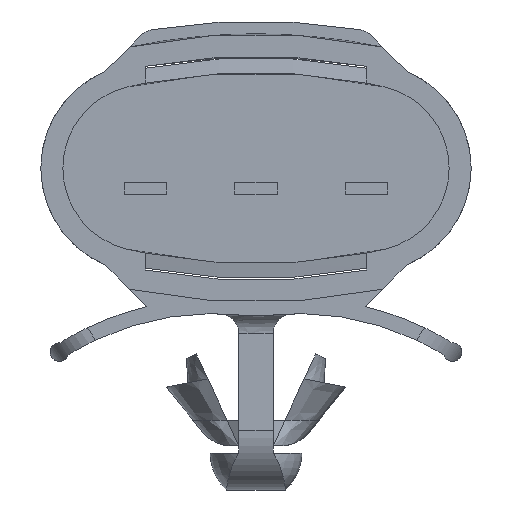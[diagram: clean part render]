
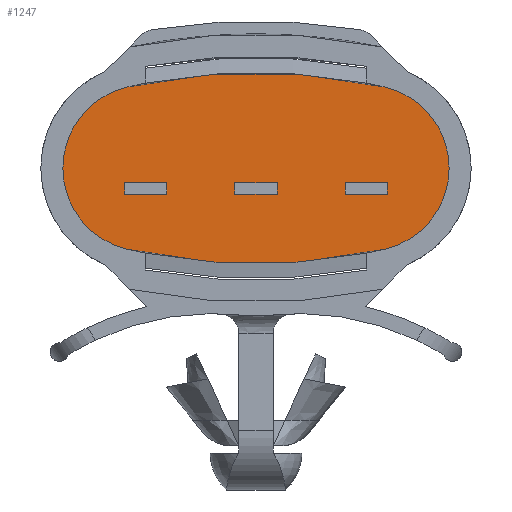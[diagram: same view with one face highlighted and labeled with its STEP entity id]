
A CAD part, left-side view. The second image highlights one B-rep face of the part: STEP entity #1247.
In plain terms, the highlighted planar face has unit normal (-1, 0, 0).
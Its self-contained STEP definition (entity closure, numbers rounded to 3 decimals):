
#1109=AXIS2_PLACEMENT_3D('Plane Axis2P3D',#1106,#1107,#1108) ;
#1113=AXIS2_PLACEMENT_3D('Circle Axis2P3D',#1111,#1112,$) ;
#1122=AXIS2_PLACEMENT_3D('Circle Axis2P3D',#1120,#1121,$) ;
#1129=AXIS2_PLACEMENT_3D('Circle Axis2P3D',#1127,#1128,$) ;
#1136=AXIS2_PLACEMENT_3D('Circle Axis2P3D',#1134,#1135,$) ;
#1106=CARTESIAN_POINT('Axis2P3D Location',(0.,0.,0.)) ;
#1111=CARTESIAN_POINT('Axis2P3D Location',(0.,6.,27.3)) ;
#1115=CARTESIAN_POINT('Vertex',(0.,12.978,-3.315)) ;
#1117=CARTESIAN_POINT('Vertex',(0.,-0.978,-3.315)) ;
#1120=CARTESIAN_POINT('Axis2P3D Location',(0.,0.028,1.1)) ;
#1124=CARTESIAN_POINT('Vertex',(0.,-0.978,5.515)) ;
#1127=CARTESIAN_POINT('Axis2P3D Location',(0.,6.,-25.1)) ;
#1131=CARTESIAN_POINT('Vertex',(0.,12.978,5.515)) ;
#1134=CARTESIAN_POINT('Axis2P3D Location',(0.,11.972,1.1)) ;
#1145=CARTESIAN_POINT('Line Origine',(0.,0.,-0.32)) ;
#1149=CARTESIAN_POINT('Vertex',(0.,1.15,-0.32)) ;
#1151=CARTESIAN_POINT('Vertex',(0.,-1.15,-0.32)) ;
#1154=CARTESIAN_POINT('Line Origine',(0.,1.15,0.)) ;
#1158=CARTESIAN_POINT('Vertex',(0.,1.15,0.32)) ;
#1161=CARTESIAN_POINT('Line Origine',(0.,0.,0.32)) ;
#1165=CARTESIAN_POINT('Vertex',(0.,-1.15,0.32)) ;
#1168=CARTESIAN_POINT('Line Origine',(0.,-1.15,0.)) ;
#1179=CARTESIAN_POINT('Line Origine',(0.,6.,-0.32)) ;
#1183=CARTESIAN_POINT('Vertex',(0.,7.15,-0.32)) ;
#1185=CARTESIAN_POINT('Vertex',(0.,4.85,-0.32)) ;
#1188=CARTESIAN_POINT('Line Origine',(0.,7.15,0.)) ;
#1192=CARTESIAN_POINT('Vertex',(0.,7.15,0.32)) ;
#1195=CARTESIAN_POINT('Line Origine',(0.,6.,0.32)) ;
#1199=CARTESIAN_POINT('Vertex',(0.,4.85,0.32)) ;
#1202=CARTESIAN_POINT('Line Origine',(0.,4.85,0.)) ;
#1213=CARTESIAN_POINT('Line Origine',(0.,12.,-0.32)) ;
#1217=CARTESIAN_POINT('Vertex',(0.,13.15,-0.32)) ;
#1219=CARTESIAN_POINT('Vertex',(0.,10.85,-0.32)) ;
#1222=CARTESIAN_POINT('Line Origine',(0.,13.15,0.)) ;
#1226=CARTESIAN_POINT('Vertex',(0.,13.15,0.32)) ;
#1229=CARTESIAN_POINT('Line Origine',(0.,12.,0.32)) ;
#1233=CARTESIAN_POINT('Vertex',(0.,10.85,0.32)) ;
#1236=CARTESIAN_POINT('Line Origine',(0.,10.85,0.)) ;
#1107=DIRECTION('Axis2P3D Direction',(-1.,0.,0.)) ;
#1108=DIRECTION('Axis2P3D XDirection',(-0.,-1.,-0.)) ;
#1112=DIRECTION('Axis2P3D Direction',(-1.,0.,0.)) ;
#1121=DIRECTION('Axis2P3D Direction',(-1.,0.,0.)) ;
#1128=DIRECTION('Axis2P3D Direction',(-1.,0.,0.)) ;
#1135=DIRECTION('Axis2P3D Direction',(-1.,0.,0.)) ;
#1146=DIRECTION('Vector Direction',(0.,1.,0.)) ;
#1155=DIRECTION('Vector Direction',(0.,0.,-1.)) ;
#1162=DIRECTION('Vector Direction',(0.,-1.,0.)) ;
#1169=DIRECTION('Vector Direction',(0.,0.,1.)) ;
#1180=DIRECTION('Vector Direction',(0.,1.,0.)) ;
#1189=DIRECTION('Vector Direction',(0.,0.,-1.)) ;
#1196=DIRECTION('Vector Direction',(0.,-1.,0.)) ;
#1203=DIRECTION('Vector Direction',(0.,0.,1.)) ;
#1214=DIRECTION('Vector Direction',(0.,1.,0.)) ;
#1223=DIRECTION('Vector Direction',(0.,0.,-1.)) ;
#1230=DIRECTION('Vector Direction',(0.,-1.,0.)) ;
#1237=DIRECTION('Vector Direction',(0.,0.,1.)) ;
#1147=VECTOR('Line Direction',#1146,1.) ;
#1156=VECTOR('Line Direction',#1155,1.) ;
#1163=VECTOR('Line Direction',#1162,1.) ;
#1170=VECTOR('Line Direction',#1169,1.) ;
#1181=VECTOR('Line Direction',#1180,1.) ;
#1190=VECTOR('Line Direction',#1189,1.) ;
#1197=VECTOR('Line Direction',#1196,1.) ;
#1204=VECTOR('Line Direction',#1203,1.) ;
#1215=VECTOR('Line Direction',#1214,1.) ;
#1224=VECTOR('Line Direction',#1223,1.) ;
#1231=VECTOR('Line Direction',#1230,1.) ;
#1238=VECTOR('Line Direction',#1237,1.) ;
#1140=ORIENTED_EDGE('',*,*,#1119,.T.) ;
#1141=ORIENTED_EDGE('',*,*,#1126,.T.) ;
#1142=ORIENTED_EDGE('',*,*,#1133,.T.) ;
#1143=ORIENTED_EDGE('',*,*,#1138,.T.) ;
#1174=ORIENTED_EDGE('',*,*,#1153,.F.) ;
#1175=ORIENTED_EDGE('',*,*,#1160,.F.) ;
#1176=ORIENTED_EDGE('',*,*,#1167,.F.) ;
#1177=ORIENTED_EDGE('',*,*,#1172,.F.) ;
#1208=ORIENTED_EDGE('',*,*,#1187,.F.) ;
#1209=ORIENTED_EDGE('',*,*,#1194,.F.) ;
#1210=ORIENTED_EDGE('',*,*,#1201,.F.) ;
#1211=ORIENTED_EDGE('',*,*,#1206,.F.) ;
#1242=ORIENTED_EDGE('',*,*,#1221,.F.) ;
#1243=ORIENTED_EDGE('',*,*,#1228,.F.) ;
#1244=ORIENTED_EDGE('',*,*,#1235,.F.) ;
#1245=ORIENTED_EDGE('',*,*,#1240,.F.) ;
#1178=FACE_BOUND('',#1173,.T.) ;
#1212=FACE_BOUND('',#1207,.T.) ;
#1246=FACE_BOUND('',#1241,.T.) ;
#1247=ADVANCED_FACE('\X2\FF8AFF9FFF70FF82\X0\ \X2\FF8EFF9EFF83FF9EFF68FF70\X0\',(#1144,#1178,#1212,#1246),#1110,.T.) ;
#1114=CIRCLE('generated circle',#1113,31.4) ;
#1123=CIRCLE('generated circle',#1122,4.528) ;
#1130=CIRCLE('generated circle',#1129,31.4) ;
#1137=CIRCLE('generated circle',#1136,4.528) ;
#1119=EDGE_CURVE('',#1116,#1118,#1114,.T.) ;
#1126=EDGE_CURVE('',#1118,#1125,#1123,.T.) ;
#1133=EDGE_CURVE('',#1125,#1132,#1130,.T.) ;
#1138=EDGE_CURVE('',#1132,#1116,#1137,.T.) ;
#1153=EDGE_CURVE('',#1150,#1152,#1148,.F.) ;
#1160=EDGE_CURVE('',#1159,#1150,#1157,.T.) ;
#1167=EDGE_CURVE('',#1166,#1159,#1164,.F.) ;
#1172=EDGE_CURVE('',#1152,#1166,#1171,.T.) ;
#1187=EDGE_CURVE('',#1184,#1186,#1182,.F.) ;
#1194=EDGE_CURVE('',#1193,#1184,#1191,.T.) ;
#1201=EDGE_CURVE('',#1200,#1193,#1198,.F.) ;
#1206=EDGE_CURVE('',#1186,#1200,#1205,.T.) ;
#1221=EDGE_CURVE('',#1218,#1220,#1216,.F.) ;
#1228=EDGE_CURVE('',#1227,#1218,#1225,.T.) ;
#1235=EDGE_CURVE('',#1234,#1227,#1232,.F.) ;
#1240=EDGE_CURVE('',#1220,#1234,#1239,.T.) ;
#1139=EDGE_LOOP('',(#1140,#1141,#1142,#1143)) ;
#1173=EDGE_LOOP('',(#1174,#1175,#1176,#1177)) ;
#1207=EDGE_LOOP('',(#1208,#1209,#1210,#1211)) ;
#1241=EDGE_LOOP('',(#1242,#1243,#1244,#1245)) ;
#1144=FACE_OUTER_BOUND('',#1139,.T.) ;
#1148=LINE('Line',#1145,#1147) ;
#1157=LINE('Line',#1154,#1156) ;
#1164=LINE('Line',#1161,#1163) ;
#1171=LINE('Line',#1168,#1170) ;
#1182=LINE('Line',#1179,#1181) ;
#1191=LINE('Line',#1188,#1190) ;
#1198=LINE('Line',#1195,#1197) ;
#1205=LINE('Line',#1202,#1204) ;
#1216=LINE('Line',#1213,#1215) ;
#1225=LINE('Line',#1222,#1224) ;
#1232=LINE('Line',#1229,#1231) ;
#1239=LINE('Line',#1236,#1238) ;
#1110=PLANE('',#1109) ;
#1116=VERTEX_POINT('',#1115) ;
#1118=VERTEX_POINT('',#1117) ;
#1125=VERTEX_POINT('',#1124) ;
#1132=VERTEX_POINT('',#1131) ;
#1150=VERTEX_POINT('',#1149) ;
#1152=VERTEX_POINT('',#1151) ;
#1159=VERTEX_POINT('',#1158) ;
#1166=VERTEX_POINT('',#1165) ;
#1184=VERTEX_POINT('',#1183) ;
#1186=VERTEX_POINT('',#1185) ;
#1193=VERTEX_POINT('',#1192) ;
#1200=VERTEX_POINT('',#1199) ;
#1218=VERTEX_POINT('',#1217) ;
#1220=VERTEX_POINT('',#1219) ;
#1227=VERTEX_POINT('',#1226) ;
#1234=VERTEX_POINT('',#1233) ;
